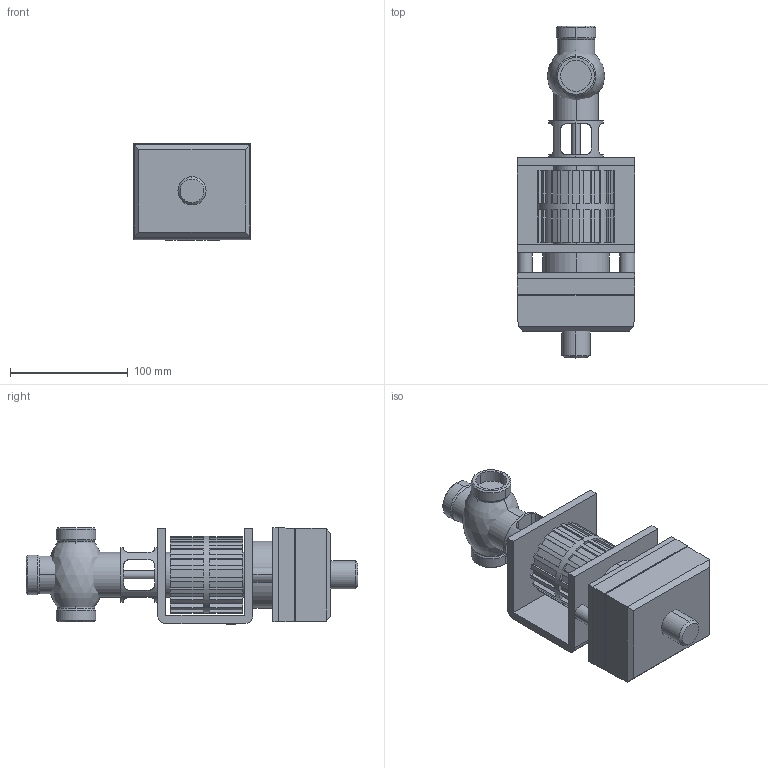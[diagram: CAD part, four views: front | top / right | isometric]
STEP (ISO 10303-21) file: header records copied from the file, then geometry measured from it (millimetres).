
FILE_DESCRIPTION((''),'2;1');
FILE_NAME('000270.stp','2006-10-04T15:56:54',(''),(''),'Mechanical Desktop 2006','Mechanical Desktop 2006',', , ');
FILE_SCHEMA(('AUTOMOTIVE_DESIGN { 1 2 10303 214 0 1 1 1 }'));
Length unit declared in the file: millimetre
Products named in the file (1): Product
Bounding box: 100 x 282.5 x 81.92 mm (x, y, z)
Volume: 1066480.7 mm3; surface area: 192897.5 mm2
Topology: 26 solids, 26 shells, 490 faces, 1280 edges, 839 vertices
Faces by surface type: plane 226, cylinder 142, bspline 116, cone 6
Entity records: 15719 total; most frequent: CARTESIAN_POINT 3660, ORIENTED_EDGE 2560, DIRECTION 2381, EDGE_CURVE 1280, VECTOR 865, LINE 865, VERTEX_POINT 839, AXIS2_PLACEMENT_3D 758
